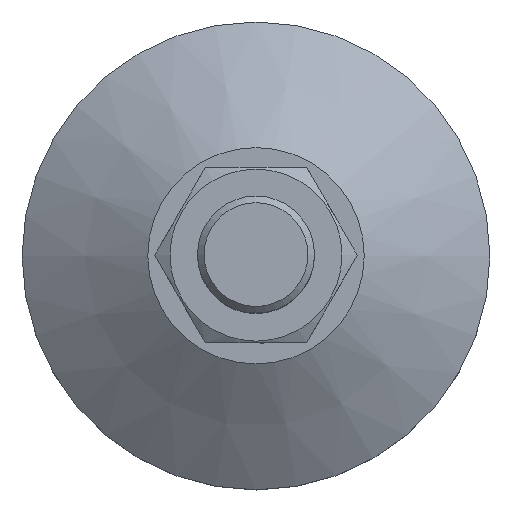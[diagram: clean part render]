
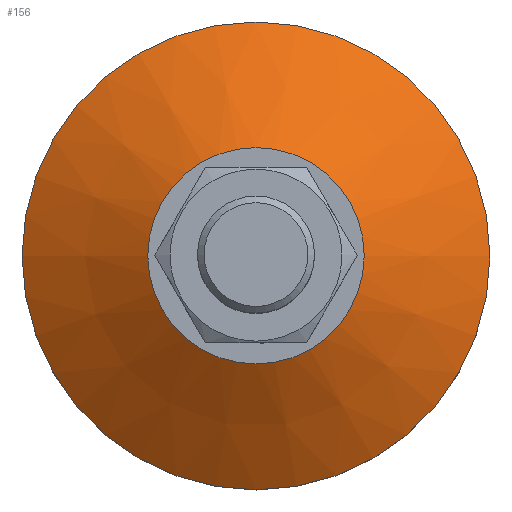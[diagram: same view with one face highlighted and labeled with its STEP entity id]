
A CAD part, top view. The second image highlights one B-rep face of the part: STEP entity #156.
In plain terms, the highlighted conical face has half-angle 56.929 degrees and reference radius 18.5 mm.
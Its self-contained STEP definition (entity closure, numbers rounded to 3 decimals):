
#156=ADVANCED_FACE('',(#287,#288),#289,.T.);
#287=FACE_OUTER_BOUND('',#417,.T.);
#288=FACE_BOUND('',#418,.T.);
#289=CONICAL_SURFACE('',#419,18.5,0.994);
#417=EDGE_LOOP('',(#577));
#418=EDGE_LOOP('',(#578));
#419=AXIS2_PLACEMENT_3D('',#579,#580,#581);
#577=ORIENTED_EDGE('',*,*,#767,.F.);
#578=ORIENTED_EDGE('',*,*,#752,.T.);
#579=CARTESIAN_POINT('',(40.0,28.0,40.0));
#580=DIRECTION('',(0.,-1.0,0.0));
#581=DIRECTION('',(-1.0,0.,0.0));
#752=EDGE_CURVE('',#856,#856,#857,.T.);
#767=EDGE_CURVE('',#881,#881,#882,.T.);
#856=VERTEX_POINT('',#1081);
#857=CIRCLE('',#1082,18.5);
#881=VERTEX_POINT('',#1178);
#882=CIRCLE('',#1179,40.0);
#1081=CARTESIAN_POINT('',(21.5,28.0,40.0));
#1082=AXIS2_PLACEMENT_3D('',#1384,#1385,#1386);
#1178=CARTESIAN_POINT('',(0.0,14.,40.0));
#1179=AXIS2_PLACEMENT_3D('',#1398,#1399,#1400);
#1384=CARTESIAN_POINT('',(40.0,28.0,40.0));
#1385=DIRECTION('',(0.,-1.0,0.0));
#1386=DIRECTION('',(-1.0,0.,0.0));
#1398=CARTESIAN_POINT('',(40.0,14.,40.0));
#1399=DIRECTION('',(0.,-1.0,0.0));
#1400=DIRECTION('',(-1.0,0.,0.0));
